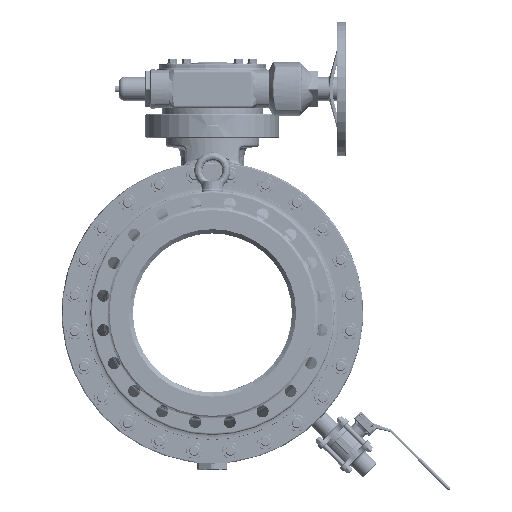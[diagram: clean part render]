
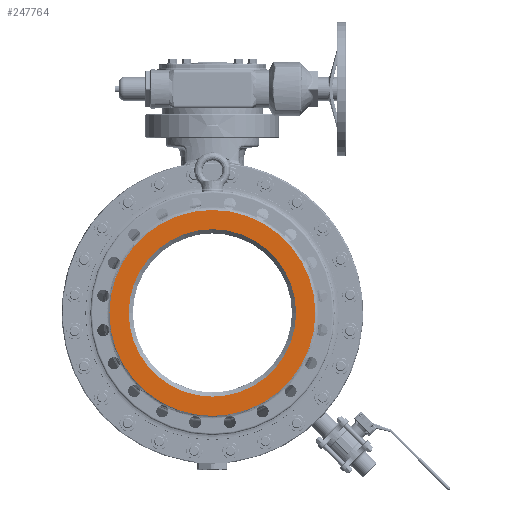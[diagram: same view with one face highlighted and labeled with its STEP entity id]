
A CAD part, left-side view. The second image highlights one B-rep face of the part: STEP entity #247764.
In plain terms, the highlighted planar face has unit normal (-1, 0, 0).
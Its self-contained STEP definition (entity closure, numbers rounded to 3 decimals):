
#63447=CARTESIAN_POINT('',(-457.,0.,0.));
#63448=DIRECTION('',(1.,0.,0.));
#63449=DIRECTION('',(0.,0.,1.));
#63450=AXIS2_PLACEMENT_3D('',#63447,#63448,#63449);
#63456=CARTESIAN_POINT('',(-457.,0.,0.));
#63457=DIRECTION('',(-1.,0.,0.));
#63458=DIRECTION('',(0.,0.,1.));
#63459=AXIS2_PLACEMENT_3D('',#63456,#63457,#63458);
#64054=CARTESIAN_POINT('',(-457.,0.,0.));
#64055=DIRECTION('',(-1.,0.,0.));
#64056=DIRECTION('',(0.,0.,1.));
#64057=AXIS2_PLACEMENT_3D('',#64054,#64055,#64056);
#68760=CARTESIAN_POINT('',(-457.,0.,0.));
#68761=DIRECTION('',(-1.,0.,0.));
#68762=DIRECTION('',(0.,0.,-1.));
#68763=AXIS2_PLACEMENT_3D('',#68760,#68761,#68762);
#106174=CARTESIAN_POINT('',(-457.,0.,250.));
#106175=CARTESIAN_POINT('',(-457.,0.,-250.));
#106176=VERTEX_POINT('',#106174);
#106177=VERTEX_POINT('',#106175);
#106182=CARTESIAN_POINT('',(-457.,0.,307.5));
#106183=CARTESIAN_POINT('',(-457.,0.,-307.5));
#106184=VERTEX_POINT('',#106182);
#106185=VERTEX_POINT('',#106183);
#247749=CARTESIAN_POINT('',(-457.,0.,0.));
#247750=DIRECTION('',(-1.,0.,0.));
#247751=DIRECTION('',(0.,0.,-1.));
#247752=AXIS2_PLACEMENT_3D('',#247749,#247750,#247751);
#247753=PLANE('',#247752);
#247755=ORIENTED_EDGE('',*,*,#247754,.F.);
#247757=ORIENTED_EDGE('',*,*,#247756,.F.);
#247758=EDGE_LOOP('',(#247755,#247757));
#247759=FACE_OUTER_BOUND('',#247758,.F.);
#247760=ORIENTED_EDGE('',*,*,#247716,.F.);
#247761=ORIENTED_EDGE('',*,*,#247731,.T.);
#247762=EDGE_LOOP('',(#247760,#247761));
#247763=FACE_BOUND('',#247762,.F.);
#247764=ADVANCED_FACE('',(#247759,#247763),#247753,.T.);
#63451=CIRCLE('',#63450,250.);
#63460=CIRCLE('',#63459,250.);
#64058=CIRCLE('',#64057,307.5);
#68764=CIRCLE('',#68763,307.5);
#247716=EDGE_CURVE('',#106176,#106177,#63451,.T.);
#247731=EDGE_CURVE('',#106176,#106177,#63460,.T.);
#247754=EDGE_CURVE('',#106184,#106185,#64058,.T.);
#247756=EDGE_CURVE('',#106185,#106184,#68764,.T.);
